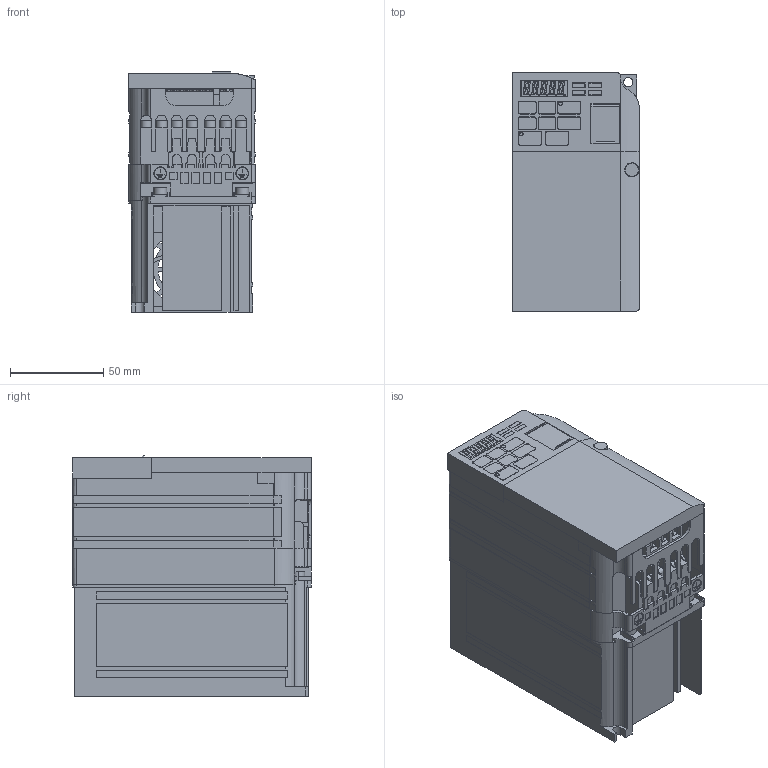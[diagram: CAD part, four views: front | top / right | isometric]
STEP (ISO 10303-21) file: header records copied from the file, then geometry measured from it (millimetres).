
FILE_DESCRIPTION((''),'2;1');
FILE_NAME('ASM0051_ASM','2010-07-20T',('jc'),('YASKAWA ELECTRIC CORCORATION'),'PRO/ENGINEER BY PARAMETRIC TECHNOLOGY CORPORATION, 2008490','PRO/ENGINEER BY PARAMETRIC TECHNOLOGY CORPORATION, 2008490','');
FILE_SCHEMA(('CONFIG_CONTROL_DESIGN'));
Length unit declared in the file: millimetre
Products named in the file (21): NONE-22643; ASM0052_ASM; NONE-47588; ASM0053_ASM; NONE-29332; ASM0054_ASM; NONE-23424; BASE_HEATSINK_A3________ANY_ASM; NONE-41751; ASM0055_ASM; NONE-42444; ASM0056_ASM; NONE-41003; BASE_FAN_A________ANY_ASM; NONE-32624; ASM0057_ASM; NONE-22969; ASM0058_ASM; CIMR_VZ2A0006BAA_ANY_ASM; _2A0006B; ASM0051_ASM
Assembly tree (20 placements, depth 4):
  ASM0051_ASM
    CIMR_VZ2A0006BAA_ANY_ASM
      ASM0052_ASM
        NONE-22643
      ASM0053_ASM
        NONE-47588
      ASM0054_ASM
        NONE-29332
      BASE_HEATSINK_A3________ANY_ASM
        NONE-23424
      ASM0055_ASM
        NONE-41751
      ASM0056_ASM
        NONE-42444
      BASE_FAN_A________ANY_ASM
        NONE-41003
      ASM0057_ASM
        NONE-32624
      ASM0058_ASM
        NONE-22969
    _2A0006B
Bounding box: 68 x 128 x 129 mm (x, y, z)
Volume: 666439.2 mm3; surface area: 192618.8 mm2
Topology: 9 solids, 9 shells, 1810 faces, 4955 edges, 3273 vertices
Faces by surface type: plane 1438, cylinder 372
Entity records: 57563 total; most frequent: CARTESIAN_POINT 10207, ORIENTED_EDGE 9910, DIRECTION 9520, EDGE_CURVE 4955, VECTOR 4104, LINE 4104, VERTEX_POINT 3273, AXIS2_PLACEMENT_3D 2708
